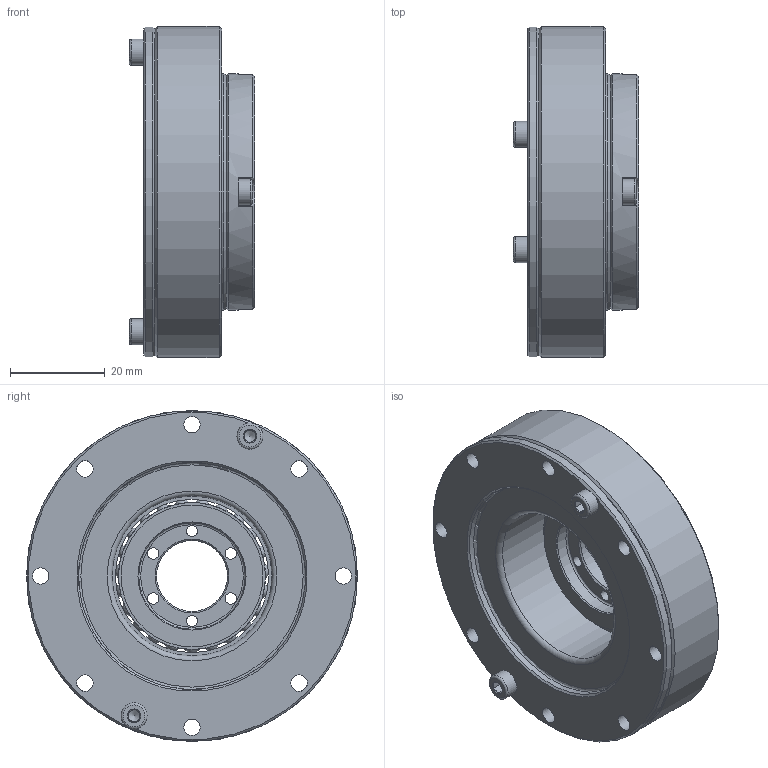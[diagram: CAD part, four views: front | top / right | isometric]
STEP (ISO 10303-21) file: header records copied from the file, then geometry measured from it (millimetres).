
FILE_DESCRIPTION(/* description */ (''),/* implementation_level */ '2;1');
FILE_NAME(/* name */ 'Getriebeset_HTG_Plus_BG35_HS.stp',/* time_stamp */ '2026-03-10T08:36:43+01:00',/* author */ (''),/* organization */ (''),/* preprocessor_version */ 'ST-DEVELOPER v19.4',/* originating_system */ 'SIEMENS PLM Software NX2212.9120',/* authorisation */ '');
FILE_SCHEMA (('AUTOMOTIVE_DESIGN { 1 0 10303 214 3 1 1 1 }'));
Length unit declared in the file: millimetre
Products named in the file (1): Getriebeset_HTG_Plus_BG35_HS
Bounding box: 26.5 x 70 x 70 mm (x, y, z)
Volume: 51719.8 mm3; surface area: 46490.7 mm2
Topology: 41 solids, 41 shells, 585 faces, 1497 edges, 962 vertices
Faces by surface type: cylinder 146, cone 145, plane 132, bspline 117, sphere 23, torus 22
Full cylindrical faces by diameter (mm): 2.4 x6, 2.5 x14, 3 x6, 3.4 x12, 3.5 x18, 5.5 x6, 15 x1, 22.5 x1, 25 x2, 26.7 x2, 27 x1, 30 x1, 32.4 x2, 33.8 x2, 34.327 x1, 35 x1, 35.258 x1, 35.8 x1, 37.44 x1, 38 x2, 45.5 x1, 48 x1, 50 x4, 51 x2, 53 x1, 55.5 x1, 58 x3, 70 x2
Entity records: 28040 total; most frequent: CARTESIAN_POINT 16266, ORIENTED_EDGE 2240, DIRECTION 1980, EDGE_CURVE 1120, AXIS2_PLACEMENT_3D 898, EDGE_LOOP 869, VERTEX_POINT 854, FACE_BOUND 601
